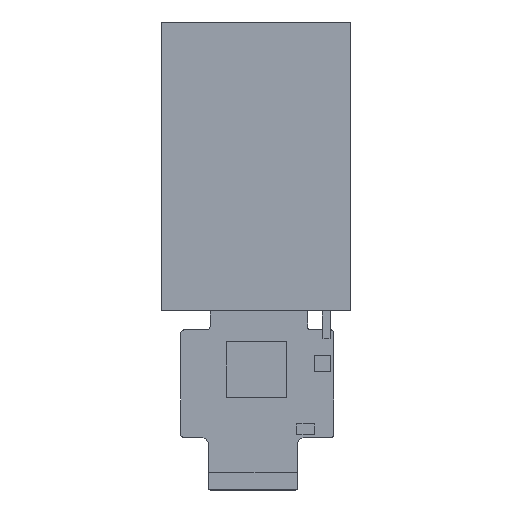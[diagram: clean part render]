
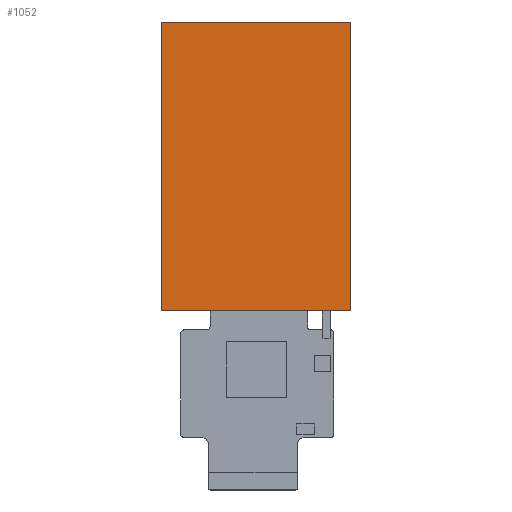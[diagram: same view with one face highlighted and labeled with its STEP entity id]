
A CAD part, top view. The second image highlights one B-rep face of the part: STEP entity #1052.
In plain terms, the highlighted planar face has unit normal (0, 0, 1).
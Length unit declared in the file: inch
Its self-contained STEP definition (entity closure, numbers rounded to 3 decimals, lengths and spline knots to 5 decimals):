
#216=DIRECTION('',(-1.,0.,0.));
#217=VECTOR('',#216,54.5);
#218=CARTESIAN_POINT('',(27.25,-44.18,-1.));
#219=LINE('',#218,#217);
#220=DIRECTION('',(0.,1.,0.));
#221=VECTOR('',#220,83.);
#222=CARTESIAN_POINT('',(-27.25,-44.18,-1.));
#223=LINE('',#222,#221);
#224=DIRECTION('',(1.,0.,0.));
#225=VECTOR('',#224,54.5);
#226=CARTESIAN_POINT('',(-27.25,38.82,-1.));
#227=LINE('',#226,#225);
#228=DIRECTION('',(0.,-1.,0.));
#229=VECTOR('',#228,83.);
#230=CARTESIAN_POINT('',(27.25,38.82,-1.));
#231=LINE('',#230,#229);
#718=CARTESIAN_POINT('',(27.25,-44.18,-1.));
#720=VERTEX_POINT('',#718);
#724=CARTESIAN_POINT('',(-27.25,-44.18,-1.));
#725=VERTEX_POINT('',#724);
#734=CARTESIAN_POINT('',(27.25,38.82,-1.));
#735=VERTEX_POINT('',#734);
#738=CARTESIAN_POINT('',(-27.25,38.82,-1.));
#739=VERTEX_POINT('',#738);
#1039=CARTESIAN_POINT('',(0.,0.,-1.));
#1040=DIRECTION('',(0.,0.,1.));
#1041=DIRECTION('',(1.,0.,0.));
#1042=AXIS2_PLACEMENT_3D('',#1039,#1040,#1041);
#1043=PLANE('',#1042);
#1044=ORIENTED_EDGE('',*,*,#1001,.T.);
#1046=ORIENTED_EDGE('',*,*,#1045,.T.);
#1048=ORIENTED_EDGE('',*,*,#1047,.T.);
#1049=ORIENTED_EDGE('',*,*,#1029,.T.);
#1050=EDGE_LOOP('',(#1044,#1046,#1048,#1049));
#1051=FACE_OUTER_BOUND('',#1050,.F.);
#1001=EDGE_CURVE('',#720,#725,#219,.T.);
#1029=EDGE_CURVE('',#735,#720,#231,.T.);
#1045=EDGE_CURVE('',#725,#739,#223,.T.);
#1047=EDGE_CURVE('',#739,#735,#227,.T.);
#1052=ADVANCED_FACE('',(#1051),#1043,.T.);
